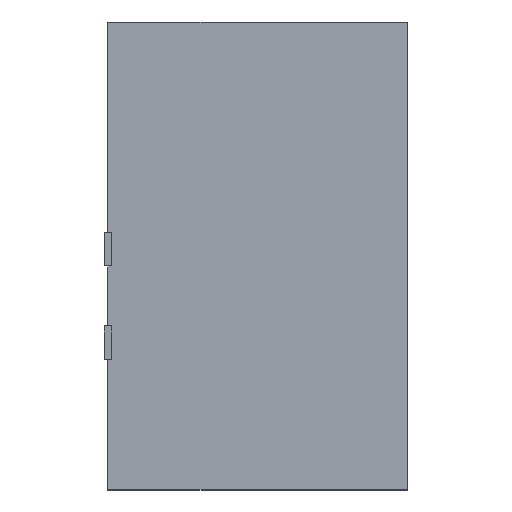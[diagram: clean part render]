
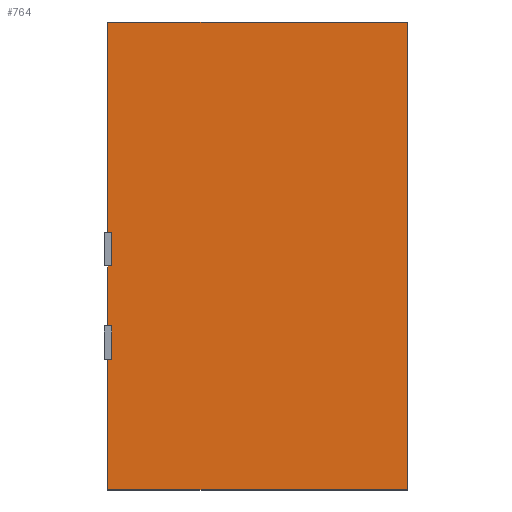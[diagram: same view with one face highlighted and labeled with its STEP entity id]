
A CAD part, top view. The second image highlights one B-rep face of the part: STEP entity #764.
In plain terms, the highlighted planar face has unit normal (0, 0, 1).
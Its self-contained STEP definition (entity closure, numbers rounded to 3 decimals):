
#44 = PLANE('',#45);
#45 = AXIS2_PLACEMENT_3D('',#46,#47,#48);
#46 = CARTESIAN_POINT('',(91.,10.77,0.));
#47 = DIRECTION('',(0.,1.,0.));
#48 = DIRECTION('',(-1.,0.,0.));
#72 = PLANE('',#73);
#73 = AXIS2_PLACEMENT_3D('',#74,#75,#76);
#74 = CARTESIAN_POINT('',(91.,10.77,0.));
#75 = DIRECTION('',(-1.,0.,0.));
#76 = DIRECTION('',(0.,0.,1.));
#100 = PLANE('',#101);
#101 = AXIS2_PLACEMENT_3D('',#102,#103,#104);
#102 = CARTESIAN_POINT('',(91.,151.23,0.));
#103 = DIRECTION('',(0.,1.,0.));
#104 = DIRECTION('',(-1.,0.,0.));
#128 = PLANE('',#129);
#129 = AXIS2_PLACEMENT_3D('',#130,#131,#132);
#130 = CARTESIAN_POINT('',(1.,10.77,0.));
#131 = DIRECTION('',(-1.,0.,0.));
#132 = DIRECTION('',(0.,0.,1.));
#184 = PLANE('',#185);
#185 = AXIS2_PLACEMENT_3D('',#186,#187,#188);
#186 = CARTESIAN_POINT('',(1.,10.77,0.));
#187 = DIRECTION('',(-1.,0.,0.));
#188 = DIRECTION('',(0.,0.,1.));
#238 = PLANE('',#239);
#239 = AXIS2_PLACEMENT_3D('',#240,#241,#242);
#240 = CARTESIAN_POINT('',(1.,10.77,0.));
#241 = DIRECTION('',(-1.,0.,0.));
#242 = DIRECTION('',(0.,0.,1.));
#254 = VERTEX_POINT('',#255);
#255 = CARTESIAN_POINT('',(91.,10.77,1.));
#278 = VERTEX_POINT('',#279);
#279 = CARTESIAN_POINT('',(1.,10.77,1.));
#300 = EDGE_CURVE('',#254,#278,#301,.T.);
#301 = SURFACE_CURVE('',#302,(#306,#313),.PCURVE_S1.);
#302 = LINE('',#303,#304);
#303 = CARTESIAN_POINT('',(91.,10.77,1.));
#304 = VECTOR('',#305,1.);
#305 = DIRECTION('',(-1.,0.,0.));
#306 = PCURVE('',#44,#307);
#307 = DEFINITIONAL_REPRESENTATION('',(#308),#312);
#308 = LINE('',#309,#310);
#309 = CARTESIAN_POINT('',(0.,1.));
#310 = VECTOR('',#311,1.);
#311 = DIRECTION('',(1.,0.));
#312 = ( GEOMETRIC_REPRESENTATION_CONTEXT(2) 
PARAMETRIC_REPRESENTATION_CONTEXT() REPRESENTATION_CONTEXT('2D SPACE',''
  ) );
#313 = PCURVE('',#314,#319);
#314 = PLANE('',#315);
#315 = AXIS2_PLACEMENT_3D('',#316,#317,#318);
#316 = CARTESIAN_POINT('',(91.,10.77,1.));
#317 = DIRECTION('',(0.,0.,1.));
#318 = DIRECTION('',(-1.,0.,0.));
#319 = DEFINITIONAL_REPRESENTATION('',(#320),#324);
#320 = LINE('',#321,#322);
#321 = CARTESIAN_POINT('',(0.,0.));
#322 = VECTOR('',#323,1.);
#323 = DIRECTION('',(1.,0.));
#324 = ( GEOMETRIC_REPRESENTATION_CONTEXT(2) 
PARAMETRIC_REPRESENTATION_CONTEXT() REPRESENTATION_CONTEXT('2D SPACE',''
  ) );
#331 = EDGE_CURVE('',#278,#332,#334,.T.);
#332 = VERTEX_POINT('',#333);
#333 = CARTESIAN_POINT('',(1.,50.,1.));
#334 = SURFACE_CURVE('',#335,(#339,#346),.PCURVE_S1.);
#335 = LINE('',#336,#337);
#336 = CARTESIAN_POINT('',(1.,10.77,1.));
#337 = VECTOR('',#338,1.);
#338 = DIRECTION('',(0.,1.,0.));
#339 = PCURVE('',#238,#340);
#340 = DEFINITIONAL_REPRESENTATION('',(#341),#345);
#341 = LINE('',#342,#343);
#342 = CARTESIAN_POINT('',(1.,0.));
#343 = VECTOR('',#344,1.);
#344 = DIRECTION('',(0.,1.));
#345 = ( GEOMETRIC_REPRESENTATION_CONTEXT(2) 
PARAMETRIC_REPRESENTATION_CONTEXT() REPRESENTATION_CONTEXT('2D SPACE',''
  ) );
#346 = PCURVE('',#314,#347);
#347 = DEFINITIONAL_REPRESENTATION('',(#348),#352);
#348 = LINE('',#349,#350);
#349 = CARTESIAN_POINT('',(90.,0.));
#350 = VECTOR('',#351,1.);
#351 = DIRECTION('',(0.,-1.));
#352 = ( GEOMETRIC_REPRESENTATION_CONTEXT(2) 
PARAMETRIC_REPRESENTATION_CONTEXT() REPRESENTATION_CONTEXT('2D SPACE',''
  ) );
#466 = VERTEX_POINT('',#467);
#467 = CARTESIAN_POINT('',(1.,60.,1.));
#488 = EDGE_CURVE('',#466,#489,#491,.T.);
#489 = VERTEX_POINT('',#490);
#490 = CARTESIAN_POINT('',(1.,78.,1.));
#491 = SURFACE_CURVE('',#492,(#496,#503),.PCURVE_S1.);
#492 = LINE('',#493,#494);
#493 = CARTESIAN_POINT('',(1.,10.77,1.));
#494 = VECTOR('',#495,1.);
#495 = DIRECTION('',(0.,1.,0.));
#496 = PCURVE('',#184,#497);
#497 = DEFINITIONAL_REPRESENTATION('',(#498),#502);
#498 = LINE('',#499,#500);
#499 = CARTESIAN_POINT('',(1.,0.));
#500 = VECTOR('',#501,1.);
#501 = DIRECTION('',(0.,1.));
#502 = ( GEOMETRIC_REPRESENTATION_CONTEXT(2) 
PARAMETRIC_REPRESENTATION_CONTEXT() REPRESENTATION_CONTEXT('2D SPACE',''
  ) );
#503 = PCURVE('',#314,#504);
#504 = DEFINITIONAL_REPRESENTATION('',(#505),#509);
#505 = LINE('',#506,#507);
#506 = CARTESIAN_POINT('',(90.,0.));
#507 = VECTOR('',#508,1.);
#508 = DIRECTION('',(0.,-1.));
#509 = ( GEOMETRIC_REPRESENTATION_CONTEXT(2) 
PARAMETRIC_REPRESENTATION_CONTEXT() REPRESENTATION_CONTEXT('2D SPACE',''
  ) );
#623 = VERTEX_POINT('',#624);
#624 = CARTESIAN_POINT('',(1.,88.,1.));
#645 = EDGE_CURVE('',#623,#646,#648,.T.);
#646 = VERTEX_POINT('',#647);
#647 = CARTESIAN_POINT('',(1.,151.23,1.));
#648 = SURFACE_CURVE('',#649,(#653,#660),.PCURVE_S1.);
#649 = LINE('',#650,#651);
#650 = CARTESIAN_POINT('',(1.,10.77,1.));
#651 = VECTOR('',#652,1.);
#652 = DIRECTION('',(0.,1.,0.));
#653 = PCURVE('',#128,#654);
#654 = DEFINITIONAL_REPRESENTATION('',(#655),#659);
#655 = LINE('',#656,#657);
#656 = CARTESIAN_POINT('',(1.,0.));
#657 = VECTOR('',#658,1.);
#658 = DIRECTION('',(0.,1.));
#659 = ( GEOMETRIC_REPRESENTATION_CONTEXT(2) 
PARAMETRIC_REPRESENTATION_CONTEXT() REPRESENTATION_CONTEXT('2D SPACE',''
  ) );
#660 = PCURVE('',#314,#661);
#661 = DEFINITIONAL_REPRESENTATION('',(#662),#666);
#662 = LINE('',#663,#664);
#663 = CARTESIAN_POINT('',(90.,0.));
#664 = VECTOR('',#665,1.);
#665 = DIRECTION('',(0.,-1.));
#666 = ( GEOMETRIC_REPRESENTATION_CONTEXT(2) 
PARAMETRIC_REPRESENTATION_CONTEXT() REPRESENTATION_CONTEXT('2D SPACE',''
  ) );
#693 = VERTEX_POINT('',#694);
#694 = CARTESIAN_POINT('',(91.,151.23,1.));
#717 = EDGE_CURVE('',#693,#646,#718,.T.);
#718 = SURFACE_CURVE('',#719,(#723,#730),.PCURVE_S1.);
#719 = LINE('',#720,#721);
#720 = CARTESIAN_POINT('',(91.,151.23,1.));
#721 = VECTOR('',#722,1.);
#722 = DIRECTION('',(-1.,0.,0.));
#723 = PCURVE('',#100,#724);
#724 = DEFINITIONAL_REPRESENTATION('',(#725),#729);
#725 = LINE('',#726,#727);
#726 = CARTESIAN_POINT('',(0.,1.));
#727 = VECTOR('',#728,1.);
#728 = DIRECTION('',(1.,0.));
#729 = ( GEOMETRIC_REPRESENTATION_CONTEXT(2) 
PARAMETRIC_REPRESENTATION_CONTEXT() REPRESENTATION_CONTEXT('2D SPACE',''
  ) );
#730 = PCURVE('',#314,#731);
#731 = DEFINITIONAL_REPRESENTATION('',(#732),#736);
#732 = LINE('',#733,#734);
#733 = CARTESIAN_POINT('',(0.,-140.46));
#734 = VECTOR('',#735,1.);
#735 = DIRECTION('',(1.,0.));
#736 = ( GEOMETRIC_REPRESENTATION_CONTEXT(2) 
PARAMETRIC_REPRESENTATION_CONTEXT() REPRESENTATION_CONTEXT('2D SPACE',''
  ) );
#743 = EDGE_CURVE('',#254,#693,#744,.T.);
#744 = SURFACE_CURVE('',#745,(#749,#756),.PCURVE_S1.);
#745 = LINE('',#746,#747);
#746 = CARTESIAN_POINT('',(91.,10.77,1.));
#747 = VECTOR('',#748,1.);
#748 = DIRECTION('',(0.,1.,0.));
#749 = PCURVE('',#72,#750);
#750 = DEFINITIONAL_REPRESENTATION('',(#751),#755);
#751 = LINE('',#752,#753);
#752 = CARTESIAN_POINT('',(1.,0.));
#753 = VECTOR('',#754,1.);
#754 = DIRECTION('',(0.,1.));
#755 = ( GEOMETRIC_REPRESENTATION_CONTEXT(2) 
PARAMETRIC_REPRESENTATION_CONTEXT() REPRESENTATION_CONTEXT('2D SPACE',''
  ) );
#756 = PCURVE('',#314,#757);
#757 = DEFINITIONAL_REPRESENTATION('',(#758),#762);
#758 = LINE('',#759,#760);
#759 = CARTESIAN_POINT('',(0.,0.));
#760 = VECTOR('',#761,1.);
#761 = DIRECTION('',(0.,-1.));
#762 = ( GEOMETRIC_REPRESENTATION_CONTEXT(2) 
PARAMETRIC_REPRESENTATION_CONTEXT() REPRESENTATION_CONTEXT('2D SPACE',''
  ) );
#764 = ADVANCED_FACE('',(#765),#314,.T.);
#765 = FACE_BOUND('',#766,.T.);
#766 = EDGE_LOOP('',(#767,#768,#769,#770,#771,#797,#798,#824));
#767 = ORIENTED_EDGE('',*,*,#300,.F.);
#768 = ORIENTED_EDGE('',*,*,#743,.T.);
#769 = ORIENTED_EDGE('',*,*,#717,.T.);
#770 = ORIENTED_EDGE('',*,*,#645,.F.);
#771 = ORIENTED_EDGE('',*,*,#772,.F.);
#772 = EDGE_CURVE('',#489,#623,#773,.T.);
#773 = SURFACE_CURVE('',#774,(#778,#785),.PCURVE_S1.);
#774 = LINE('',#775,#776);
#775 = CARTESIAN_POINT('',(1.,10.77,1.));
#776 = VECTOR('',#777,1.);
#777 = DIRECTION('',(0.,1.,0.));
#778 = PCURVE('',#314,#779);
#779 = DEFINITIONAL_REPRESENTATION('',(#780),#784);
#780 = LINE('',#781,#782);
#781 = CARTESIAN_POINT('',(90.,0.));
#782 = VECTOR('',#783,1.);
#783 = DIRECTION('',(0.,-1.));
#784 = ( GEOMETRIC_REPRESENTATION_CONTEXT(2) 
PARAMETRIC_REPRESENTATION_CONTEXT() REPRESENTATION_CONTEXT('2D SPACE',''
  ) );
#785 = PCURVE('',#786,#791);
#786 = PLANE('',#787);
#787 = AXIS2_PLACEMENT_3D('',#788,#789,#790);
#788 = CARTESIAN_POINT('',(1.,78.,0.));
#789 = DIRECTION('',(1.,0.,0.));
#790 = DIRECTION('',(0.,0.,1.));
#791 = DEFINITIONAL_REPRESENTATION('',(#792),#796);
#792 = LINE('',#793,#794);
#793 = CARTESIAN_POINT('',(1.,67.23));
#794 = VECTOR('',#795,1.);
#795 = DIRECTION('',(0.,-1.));
#796 = ( GEOMETRIC_REPRESENTATION_CONTEXT(2) 
PARAMETRIC_REPRESENTATION_CONTEXT() REPRESENTATION_CONTEXT('2D SPACE',''
  ) );
#797 = ORIENTED_EDGE('',*,*,#488,.F.);
#798 = ORIENTED_EDGE('',*,*,#799,.F.);
#799 = EDGE_CURVE('',#332,#466,#800,.T.);
#800 = SURFACE_CURVE('',#801,(#805,#812),.PCURVE_S1.);
#801 = LINE('',#802,#803);
#802 = CARTESIAN_POINT('',(1.,10.77,1.));
#803 = VECTOR('',#804,1.);
#804 = DIRECTION('',(0.,1.,0.));
#805 = PCURVE('',#314,#806);
#806 = DEFINITIONAL_REPRESENTATION('',(#807),#811);
#807 = LINE('',#808,#809);
#808 = CARTESIAN_POINT('',(90.,0.));
#809 = VECTOR('',#810,1.);
#810 = DIRECTION('',(0.,-1.));
#811 = ( GEOMETRIC_REPRESENTATION_CONTEXT(2) 
PARAMETRIC_REPRESENTATION_CONTEXT() REPRESENTATION_CONTEXT('2D SPACE',''
  ) );
#812 = PCURVE('',#813,#818);
#813 = PLANE('',#814);
#814 = AXIS2_PLACEMENT_3D('',#815,#816,#817);
#815 = CARTESIAN_POINT('',(1.,50.,0.));
#816 = DIRECTION('',(1.,0.,0.));
#817 = DIRECTION('',(0.,0.,1.));
#818 = DEFINITIONAL_REPRESENTATION('',(#819),#823);
#819 = LINE('',#820,#821);
#820 = CARTESIAN_POINT('',(1.,39.23));
#821 = VECTOR('',#822,1.);
#822 = DIRECTION('',(0.,-1.));
#823 = ( GEOMETRIC_REPRESENTATION_CONTEXT(2) 
PARAMETRIC_REPRESENTATION_CONTEXT() REPRESENTATION_CONTEXT('2D SPACE',''
  ) );
#824 = ORIENTED_EDGE('',*,*,#331,.F.);
